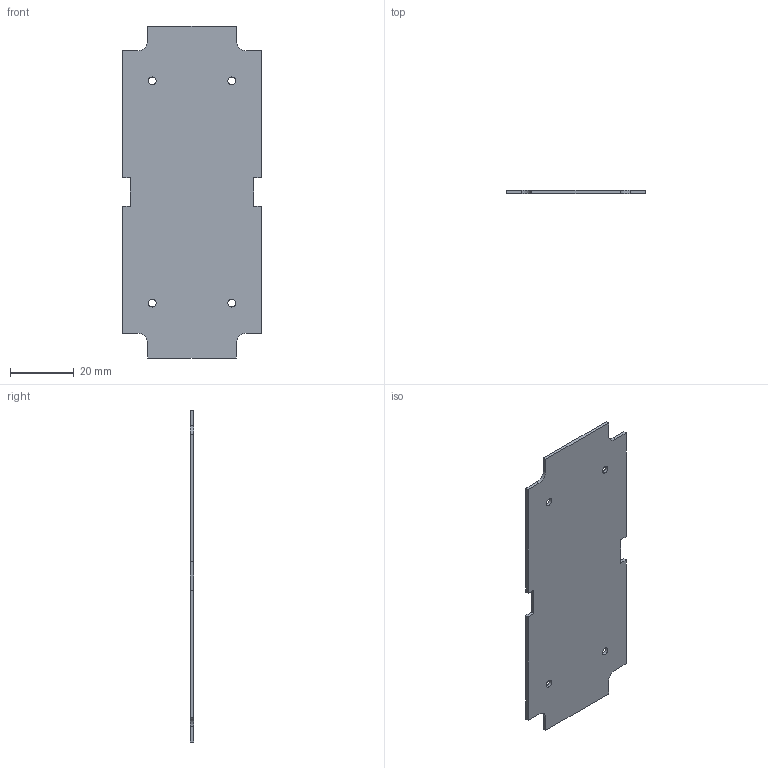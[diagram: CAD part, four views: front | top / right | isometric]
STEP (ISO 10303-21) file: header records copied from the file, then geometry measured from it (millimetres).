
FILE_DESCRIPTION(/* description */ (''),/* implementation_level */ '2;1');
FILE_NAME(/* name */ 'E:\Eng\Customer Service\Drawings\1552\3D\PCB 1552\STP\1552D3 BOTTOM PCB.stp',/* time_stamp */ '2020-07-23T07:32:56-04:00',/* author */ ('mbeerman'),/* organization */ (''),/* preprocessor_version */ 'ST-DEVELOPER v18.1',/* originating_system */ 'Autodesk Inventor 2020',/* authorisation */ '');
FILE_SCHEMA (('AUTOMOTIVE_DESIGN { 1 0 10303 214 3 1 1 }'));
Length unit declared in the file: millimetre
Products named in the file (1): 1552C1 CABLE CUTOUT PCB
Bounding box: 43.72 x 1 x 104.5 mm (x, y, z)
Volume: 4269.3 mm3; surface area: 8870.1 mm2
Topology: 1 solids, 1 shells, 30 faces, 84 edges, 56 vertices
Faces by surface type: plane 22, cylinder 8
Full cylindrical faces by diameter (mm): 2.4 x4
Entity records: 1021 total; most frequent: CARTESIAN_POINT 171, ORIENTED_EDGE 168, DIRECTION 162, EDGE_CURVE 84, LINE 68, VECTOR 68, VERTEX_POINT 56, AXIS2_PLACEMENT_3D 47
